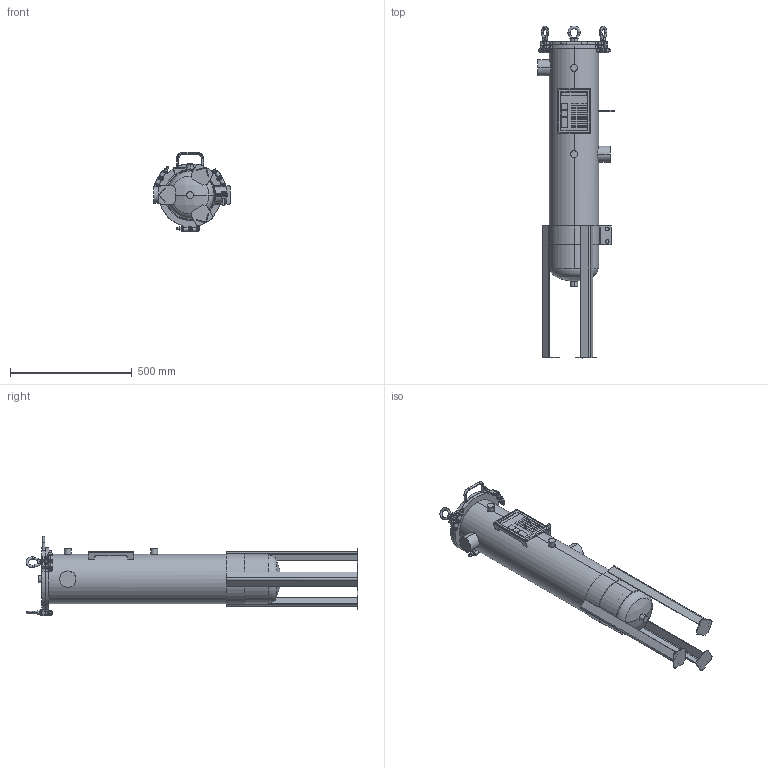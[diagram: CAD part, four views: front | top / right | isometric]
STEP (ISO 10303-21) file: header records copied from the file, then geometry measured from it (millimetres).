
FILE_DESCRIPTION (( 'STEP AP203' ), '1' );
FILE_NAME ('002001-00179.step', '2025-12-09T14:42:24', ( '' ), ( '' ), 'SwSTEP 2.0', 'SolidWorks 2023', '' );
FILE_SCHEMA (( 'CONFIG_CONTROL_DESIGN' ));
Length unit declared in the file: inch
Products named in the file (1): 002001-00179
Bounding box: 314.45 x 1365.65 x 326.79 mm (x, y, z)
Volume: 6119761.8 mm3; surface area: 1952127 mm2
Topology: 11 solids, 11 shells, 806 faces, 1927 edges, 1193 vertices
Faces by surface type: plane 314, cylinder 253, cone 127, torus 59, bspline 51, sphere 2
Entity records: 27417 total; most frequent: CARTESIAN_POINT 8914, DIRECTION 3906, ORIENTED_EDGE 3830, EDGE_CURVE 1915, AXIS2_PLACEMENT_3D 1565, VERTEX_POINT 1193, EDGE_LOOP 882, CIRCLE 809
